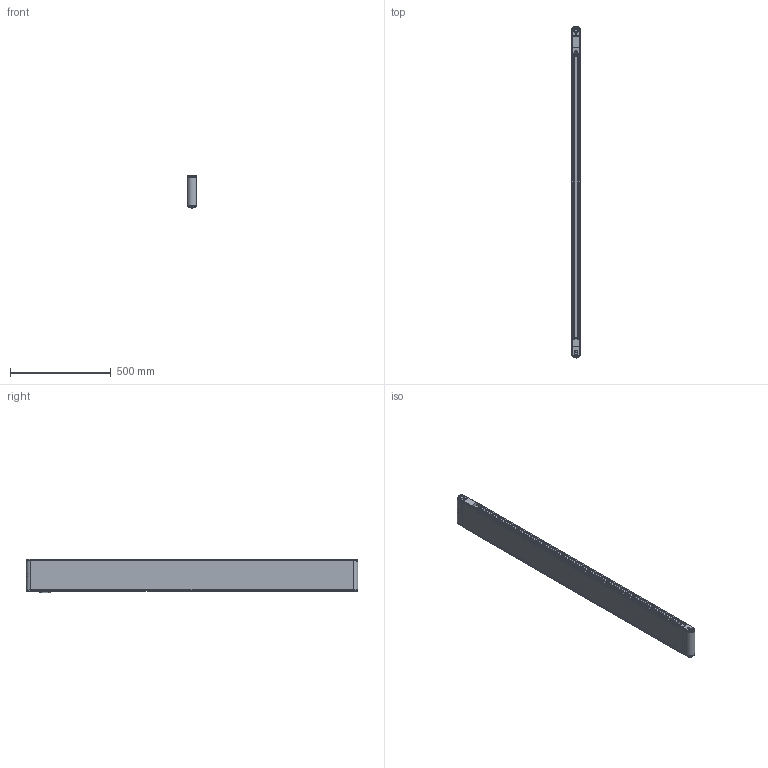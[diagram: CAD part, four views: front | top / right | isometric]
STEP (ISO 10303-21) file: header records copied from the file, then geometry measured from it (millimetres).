
FILE_DESCRIPTION(/* description */ (''),/* implementation_level */ '2;1');
FILE_NAME(/* name */ 'G:\DATEN\CAD\Förderband\Marketing\3D-Modelle (Standard)\FR-40-160\FR-40-160-1600-K.stp',/* time_stamp */ '2019-05-08T09:11:16+02:00',/* author */ ('melanie.ochs'),/* organization */ (''),/* preprocessor_version */ 'ST-DEVELOPER v17',/* originating_system */ 'Autodesk Inventor 2019',/* authorisation */ '');
FILE_SCHEMA (('CONFIG_CONTROL_DESIGN'));
Length unit declared in the file: centimetre
Products named in the file (1): FR-40-160-1600-K
Bounding box: 46.6 x 1646.6 x 168.53 mm (x, y, z)
Volume: 3377149.8 mm3; surface area: 1927273.4 mm2
Topology: 6 solids, 25 shells, 1038 faces, 2916 edges, 1955 vertices
Faces by surface type: plane 521, cylinder 292, bspline 122, cone 78, torus 25
Full cylindrical faces by diameter (mm): 2 x2, 4 x6, 4.3 x4, 4.917 x1, 5 x11, 5.5 x8, 6 x4, 6.5 x1, 6.647 x3, 8 x4, 8.3 x20, 8.5 x8, 8.773 x1, 10 x1, 11 x1, 12 x5, 15 x2, 20 x4, 25 x2, 28 x4
Entity records: 36172 total; most frequent: CARTESIAN_POINT 8469, ORIENTED_EDGE 5802, DIRECTION 5284, EDGE_CURVE 2901, VERTEX_POINT 1955, AXIS2_PLACEMENT_3D 1858, LINE 1568, VECTOR 1568
